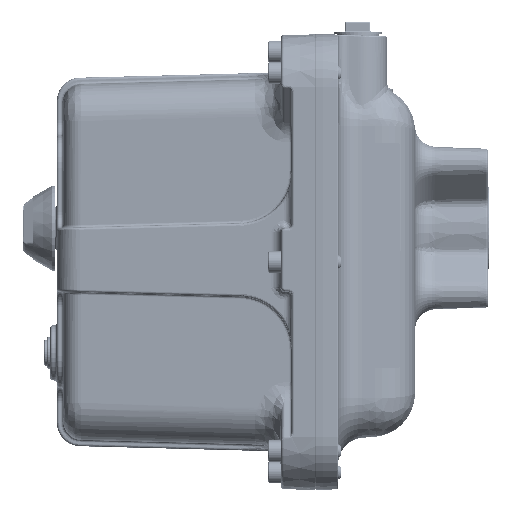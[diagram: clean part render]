
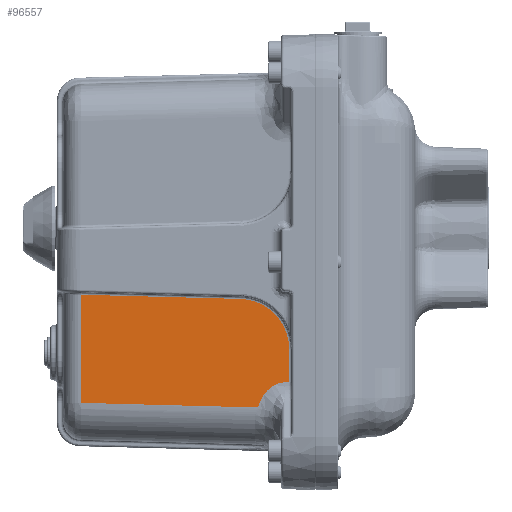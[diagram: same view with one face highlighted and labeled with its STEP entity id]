
A CAD part, left-side view. The second image highlights one B-rep face of the part: STEP entity #96557.
In plain terms, the highlighted planar face has unit normal (-1, 0.026, 0) as drawn and (0, -1, 0.026) by its records, which use the part's own axes.
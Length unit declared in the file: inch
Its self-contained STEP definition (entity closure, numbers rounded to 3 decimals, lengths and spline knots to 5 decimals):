
#9173 = ORIENTED_EDGE ( 'NONE', *, *, #777394, .T. ) ;
#39215 = ORIENTED_EDGE ( 'NONE', *, *, #391008, .T. ) ;
#51991 = VERTEX_POINT ( 'NONE', #249856 ) ;
#52452 = LINE ( 'NONE', #554036, #212302 ) ;
#74657 = DIRECTION ( 'NONE',  ( 0., -0.026, -1. ) ) ;
#79283 = FACE_OUTER_BOUND ( 'NONE', #256351, .T. ) ;
#96557 = ADVANCED_FACE ( 'NONE', ( #79283 ), #674077, .T. ) ;
#99023 = VERTEX_POINT ( 'NONE', #579508 ) ;
#118363 =( BOUNDED_CURVE ( )  B_SPLINE_CURVE ( 3, ( #670960, #888614, #448667, #519608 ),
 .UNSPECIFIED., .F., .F. ) 
 B_SPLINE_CURVE_WITH_KNOTS ( ( 4, 4 ),
 ( 0., 1.54462 ),
 .UNSPECIFIED. ) 
 CURVE ( )  GEOMETRIC_REPRESENTATION_ITEM ( )  RATIONAL_B_SPLINE_CURVE ( ( 1., 0.811, 0.811, 1. ) ) 
 REPRESENTATION_ITEM ( '' )  );
#132543 = VECTOR ( 'NONE', #902670, 39.37008 ) ;
#138475 = VERTEX_POINT ( 'NONE', #157369 ) ;
#157369 = CARTESIAN_POINT ( 'NONE',  ( -4.23905, -3.81378, 1.3832 ) ) ;
#212302 = VECTOR ( 'NONE', #842673, 39.37008 ) ;
#230622 = ORIENTED_EDGE ( 'NONE', *, *, #893192, .T. ) ;
#249856 = CARTESIAN_POINT ( 'NONE',  ( -4.1299, -3.70463, 5.55152 ) ) ;
#256351 = EDGE_LOOP ( 'NONE', ( #39215, #491268, #313706, #549558, #230622, #418618, #9173, #347000 ) ) ;
#259140 = CARTESIAN_POINT ( 'NONE',  ( -3.637, -3.85204, -0.0779 ) ) ;
#263558 = CARTESIAN_POINT ( 'NONE',  ( -1.67349, -3.80294, 1.79728 ) ) ;
#282665 = EDGE_CURVE ( 'NONE', #534743, #712068, #291429, .T. ) ;
#291429 = LINE ( 'NONE', #579958, #796463 ) ;
#309862 = VECTOR ( 'NONE', #522889, 39.37008 ) ;
#313706 = ORIENTED_EDGE ( 'NONE', *, *, #742689, .T. ) ;
#321332 = CARTESIAN_POINT ( 'NONE',  ( -3.65348, -3.82292, 1.03428 ) ) ;
#323906 = LINE ( 'NONE', #891841, #309862 ) ;
#347000 = ORIENTED_EDGE ( 'NONE', *, *, #623978, .T. ) ;
#354869 = DIRECTION ( 'NONE',  ( -1., 0., 0. ) ) ;
#363286 = CARTESIAN_POINT ( 'NONE',  ( 3.55003, -3.85, 0. ) ) ;
#368648 =( BOUNDED_CURVE ( )  B_SPLINE_CURVE ( 3, ( #824987, #669049, #389757, #895989 ),
 .UNSPECIFIED., .F., .F. ) 
 B_SPLINE_CURVE_WITH_KNOTS ( ( 4, 4 ),
 ( 0., 0.01084 ),
 .UNSPECIFIED. ) 
 CURVE ( )  GEOMETRIC_REPRESENTATION_ITEM ( )  RATIONAL_B_SPLINE_CURVE ( ( 1., 1., 1., 1. ) ) 
 REPRESENTATION_ITEM ( '' )  );
#389757 = CARTESIAN_POINT ( 'NONE',  ( -3.64592, -3.83049, 0.74496 ) ) ;
#391008 = EDGE_CURVE ( 'NONE', #99023, #550898, #907281, .T. ) ;
#402067 = VERTEX_POINT ( 'NONE', #453159 ) ;
#414603 = AXIS2_PLACEMENT_3D ( 'NONE', #363286, #505198, #74657 ) ;
#418618 = ORIENTED_EDGE ( 'NONE', *, *, #886410, .T. ) ;
#448667 = CARTESIAN_POINT ( 'NONE',  ( -1.69136, -3.82081, 1.11481 ) ) ;
#453159 = CARTESIAN_POINT ( 'NONE',  ( -2.86308, -3.83328, 0.63843 ) ) ;
#458004 = CARTESIAN_POINT ( 'NONE',  ( -1.57518, -3.70463, 5.55152 ) ) ;
#482764 = CARTESIAN_POINT ( 'NONE',  ( -3.64477, -3.83328, 0.63843 ) ) ;
#491268 = ORIENTED_EDGE ( 'NONE', *, *, #594901, .T. ) ;
#505198 = DIRECTION ( 'NONE',  ( 0., -1., 0.026 ) ) ;
#508966 = DIRECTION ( 'NONE',  ( 0.026, 0.026, 0.999 ) ) ;
#519608 = CARTESIAN_POINT ( 'NONE',  ( -1.67349, -3.80294, 1.79728 ) ) ;
#522889 = DIRECTION ( 'NONE',  ( -0.026, -0.026, -0.999 ) ) ;
#534256 = CARTESIAN_POINT ( 'NONE',  ( -3.87363, -3.81676, 1.26929 ) ) ;
#534743 = VERTEX_POINT ( 'NONE', #263558 ) ;
#549558 = ORIENTED_EDGE ( 'NONE', *, *, #282665, .T. ) ;
#550898 = VERTEX_POINT ( 'NONE', #482764 ) ;
#554036 = CARTESIAN_POINT ( 'NONE',  ( -2.86308, -3.83328, 0.63843 ) ) ;
#577095 = LINE ( 'NONE', #634136, #602805 ) ;
#579508 = CARTESIAN_POINT ( 'NONE',  ( -3.6459, -3.83056, 0.74236 ) ) ;
#579958 = CARTESIAN_POINT ( 'NONE',  ( -1.57514, -3.70459, 5.55309 ) ) ;
#594901 = EDGE_CURVE ( 'NONE', #550898, #402067, #52452, .T. ) ;
#602805 = VECTOR ( 'NONE', #354869, 39.37008 ) ;
#623978 = EDGE_CURVE ( 'NONE', #886976, #99023, #368648, .T. ) ;
#634136 = CARTESIAN_POINT ( 'NONE',  ( -4.11868, -3.70463, 5.55152 ) ) ;
#657266 =( BOUNDED_CURVE ( )  B_SPLINE_CURVE ( 3, ( #879914, #534256, #321332, #738047 ),
 .UNSPECIFIED., .F., .T. ) 
 B_SPLINE_CURVE_WITH_KNOTS ( ( 4, 4 ),
 ( 5.16163, 6.28319 ),
 .UNSPECIFIED. ) 
 CURVE ( )  GEOMETRIC_REPRESENTATION_ITEM ( )  RATIONAL_B_SPLINE_CURVE ( ( 1., 0.898, 0.898, 1. ) ) 
 REPRESENTATION_ITEM ( '' )  );
#669049 = CARTESIAN_POINT ( 'NONE',  ( -3.64597, -3.83042, 0.74755 ) ) ;
#670960 = CARTESIAN_POINT ( 'NONE',  ( -2.86308, -3.83328, 0.63843 ) ) ;
#674077 = PLANE ( 'NONE',  #414603 ) ;
#712068 = VERTEX_POINT ( 'NONE', #458004 ) ;
#738047 = CARTESIAN_POINT ( 'NONE',  ( -3.64604, -3.83036, 0.75015 ) ) ;
#742689 = EDGE_CURVE ( 'NONE', #402067, #534743, #118363, .T. ) ;
#777394 = EDGE_CURVE ( 'NONE', #138475, #886976, #657266, .T. ) ;
#796463 = VECTOR ( 'NONE', #508966, 39.37008 ) ;
#824987 = CARTESIAN_POINT ( 'NONE',  ( -3.64604, -3.83036, 0.75015 ) ) ;
#842673 = DIRECTION ( 'NONE',  ( 1., 0., 0. ) ) ;
#879914 = CARTESIAN_POINT ( 'NONE',  ( -4.23905, -3.81378, 1.3832 ) ) ;
#886410 = EDGE_CURVE ( 'NONE', #51991, #138475, #323906, .T. ) ;
#886976 = VERTEX_POINT ( 'NONE', #904640 ) ;
#888614 = CARTESIAN_POINT ( 'NONE',  ( -2.18038, -3.83328, 0.63843 ) ) ;
#891841 = CARTESIAN_POINT ( 'NONE',  ( -4.26068, -3.83541, 0.55713 ) ) ;
#893192 = EDGE_CURVE ( 'NONE', #712068, #51991, #577095, .T. ) ;
#895989 = CARTESIAN_POINT ( 'NONE',  ( -3.6459, -3.83056, 0.74236 ) ) ;
#902670 = DIRECTION ( 'NONE',  ( 0.011, -0.026, -1. ) ) ;
#904640 = CARTESIAN_POINT ( 'NONE',  ( -3.64604, -3.83036, 0.75015 ) ) ;
#907281 = LINE ( 'NONE', #259140, #132543 ) ;
